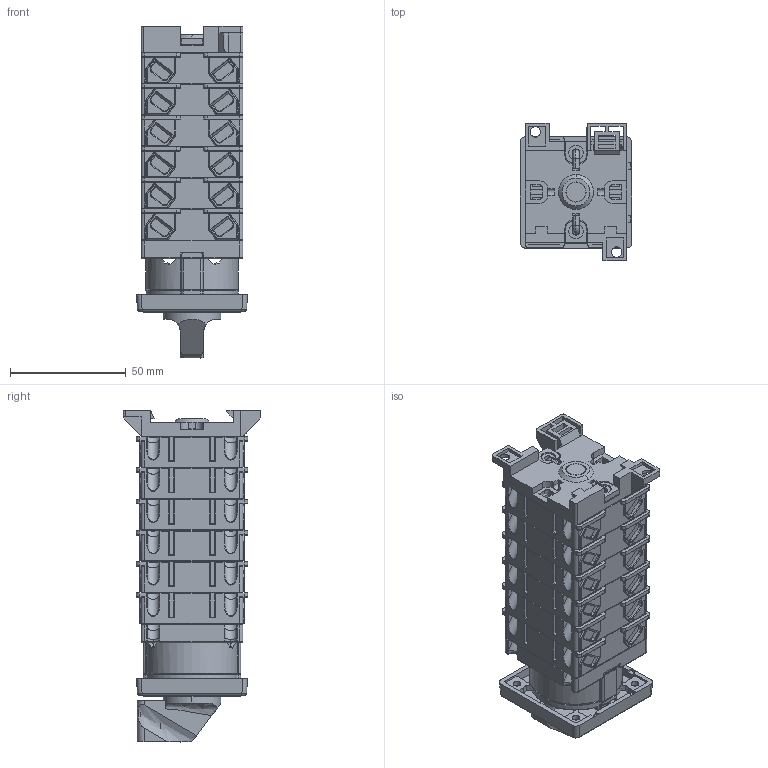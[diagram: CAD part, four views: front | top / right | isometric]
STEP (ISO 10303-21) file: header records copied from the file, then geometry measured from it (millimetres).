
FILE_DESCRIPTION (( 'STEP AP214' ), '1' );
FILE_NAME ('Ïåðåêëþ÷àòåëü 4G10-XXXX-OU-R012,R014,S24 6ê.STEP', '2022-11-25T11:51:04', ( '' ), ( '' ), 'SwSTEP 2.0', 'SolidWorks 2018', '' );
FILE_SCHEMA (( 'AUTOMOTIVE_DESIGN' ));
Length unit declared in the file: millimetre
Products named in the file (1): Ïåðåêëþ÷àòåëü 4G10-XXXX-OU-R012,R014,S24 6ê
Bounding box: 48 x 59.6 x 143.4 mm (x, y, z)
Volume: 209159.5 mm3; surface area: 92051.5 mm2
Topology: 25 solids, 73 shells, 5478 faces, 14089 edges, 8919 vertices
Faces by surface type: plane 3098, cylinder 1754, torus 282, cone 209, bspline 89, sphere 46
Entity records: 236261 total; most frequent: CARTESIAN_POINT 44119, ORIENTED_EDGE 28072, DIRECTION 26818, EDGE_CURVE 14036, LINE 9468, VECTOR 9468, VERTEX_POINT 8903, AXIS2_PLACEMENT_3D 8675
